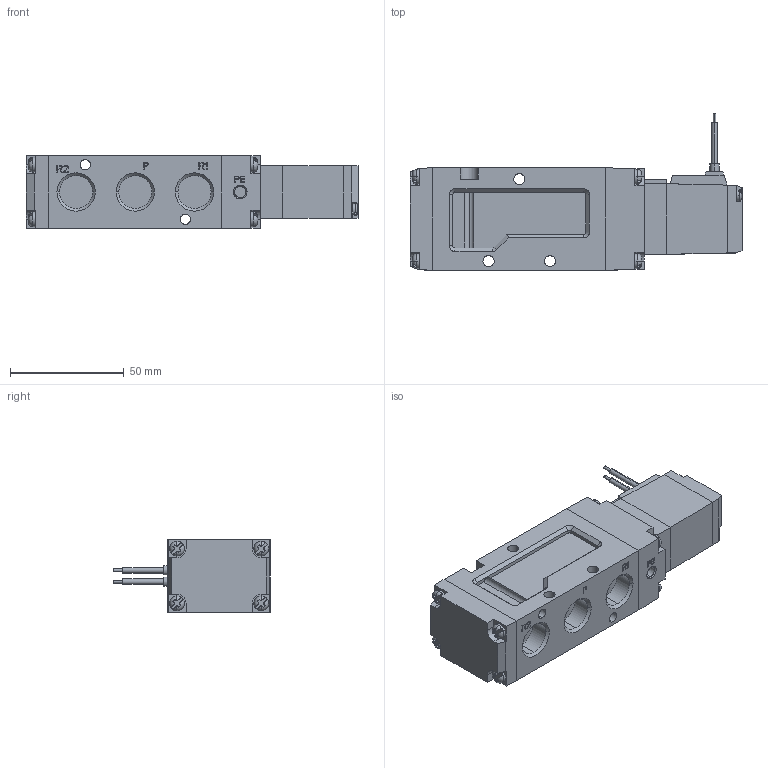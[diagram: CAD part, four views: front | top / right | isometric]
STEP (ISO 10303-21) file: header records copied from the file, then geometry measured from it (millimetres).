
FILE_DESCRIPTION (( 'STEP AP203' ), '1' );
FILE_NAME ('RKS2450-03-#-L.STEP', '2016-02-17T01:16:47', ( 'Sam Lin' ), ( '' ), 'SwSTEP 2.0', 'SolidWorks 2013', '' );
FILE_SCHEMA (( 'CONFIG_CONTROL_DESIGN' ));
Length unit declared in the file: metre
Products named in the file (7): PILOT_COVER; RKS2450-03-#-L; ADAPTER_SV300; BODY_SV300; COIL_ASM; END_COVER_SV300; PILOT_BODY
Assembly tree (6 placements, depth 2):
  RKS2450-03-#-L
    ADAPTER_SV300
    BODY_SV300
    COIL_ASM
    END_COVER_SV300
    PILOT_BODY
    PILOT_COVER
Bounding box: 145.8 x 68.8 x 32 mm (x, y, z)
Volume: 160032.2 mm3; surface area: 39413.9 mm2
Topology: 6 solids, 6 shells, 686 faces, 1848 edges, 1212 vertices
Faces by surface type: plane 487, cylinder 139, torus 38, cone 20, bspline 2
Entity records: 24184 total; most frequent: CARTESIAN_POINT 6679, ORIENTED_EDGE 3696, DIRECTION 3149, EDGE_CURVE 1848, VERTEX_POINT 1212, VECTOR 1193, LINE 1193, AXIS2_PLACEMENT_3D 978
